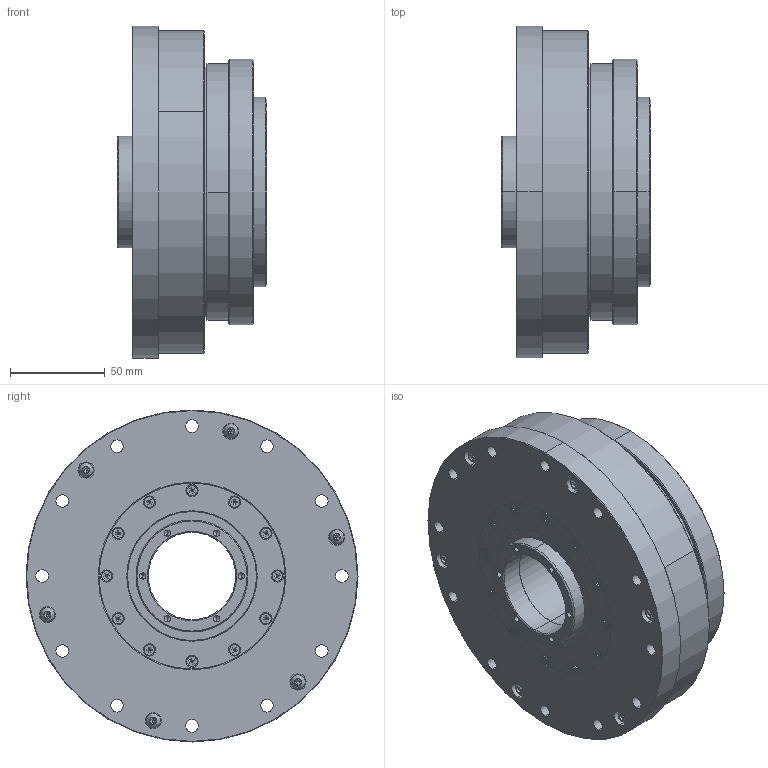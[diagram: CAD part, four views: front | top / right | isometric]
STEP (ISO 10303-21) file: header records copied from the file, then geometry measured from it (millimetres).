
FILE_DESCRIPTION (( 'STEP AP203' ), '1' );
FILE_NAME ('LHSG-40-XXX-C-III.step', '2025-01-07T07:27:19', ( '' ), ( '' ), 'SwSTEP 2.0', 'SolidWorks 2023', '' );
FILE_SCHEMA (( 'CONFIG_CONTROL_DESIGN' ));
Length unit declared in the file: metre
Products named in the file (1): LHSG-40-XXX-C-III
Bounding box: 79 x 175 x 175 mm (x, y, z)
Volume: 930731.6 mm3; surface area: 455215.1 mm2
Topology: 69 solids, 69 shells, 2330 faces, 6218 edges, 3808 vertices
Faces by surface type: cylinder 694, plane 656, bspline 584, cone 396
Entity records: 87856 total; most frequent: CARTESIAN_POINT 33377, ORIENTED_EDGE 11964, DIRECTION 10742, EDGE_CURVE 5982, AXIS2_PLACEMENT_3D 4443, VERTEX_POINT 3808, EDGE_LOOP 2760, CIRCLE 2696
